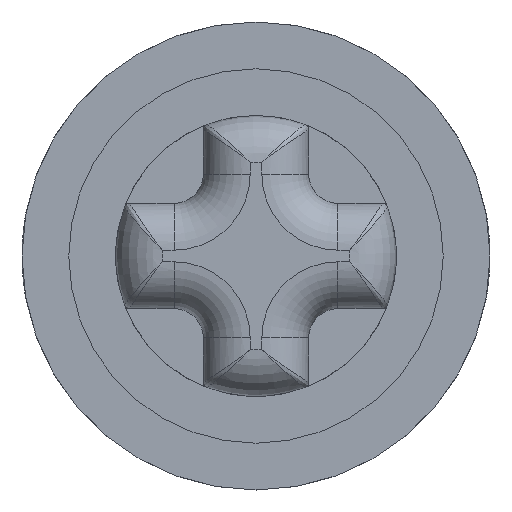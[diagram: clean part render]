
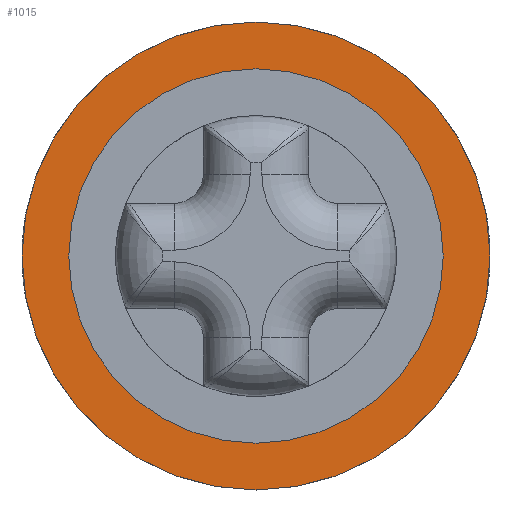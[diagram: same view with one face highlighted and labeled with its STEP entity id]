
A CAD part, front view. The second image highlights one B-rep face of the part: STEP entity #1015.
In plain terms, the highlighted planar face has unit normal (0, -1, 0).
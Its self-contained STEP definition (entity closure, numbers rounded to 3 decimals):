
#119=CIRCLE('',#1122,3.2);
#120=CIRCLE('',#1124,4.);
#211=ORIENTED_EDGE('',*,*,#516,.F.);
#212=ORIENTED_EDGE('',*,*,#515,.T.);
#515=EDGE_CURVE('',#668,#668,#119,.T.);
#516=EDGE_CURVE('',#669,#669,#120,.T.);
#668=VERTEX_POINT('',#1647);
#669=VERTEX_POINT('',#1650);
#851=EDGE_LOOP('',(#211));
#852=EDGE_LOOP('',(#212));
#924=FACE_BOUND('',#851,.T.);
#925=FACE_BOUND('',#852,.T.);
#989=PLANE('',#1123);
#1015=ADVANCED_FACE('',(#924,#925),#989,.F.);
#1122=AXIS2_PLACEMENT_3D('',#1646,#1302,#1303);
#1123=AXIS2_PLACEMENT_3D('',#1648,#1304,#1305);
#1124=AXIS2_PLACEMENT_3D('',#1649,#1306,#1307);
#1302=DIRECTION('',(0.,1.,0.));
#1303=DIRECTION('',(0.,0.,1.));
#1304=DIRECTION('',(0.,1.,0.));
#1305=DIRECTION('',(0.,0.,1.));
#1306=DIRECTION('',(0.,1.,0.));
#1307=DIRECTION('',(0.,0.,1.));
#1646=CARTESIAN_POINT('',(0.,0.8,0.));
#1647=CARTESIAN_POINT('',(0.,0.8,3.2));
#1648=CARTESIAN_POINT('',(0.,0.8,-3.2));
#1649=CARTESIAN_POINT('',(0.,0.8,0.));
#1650=CARTESIAN_POINT('',(0.,0.8,4.));
